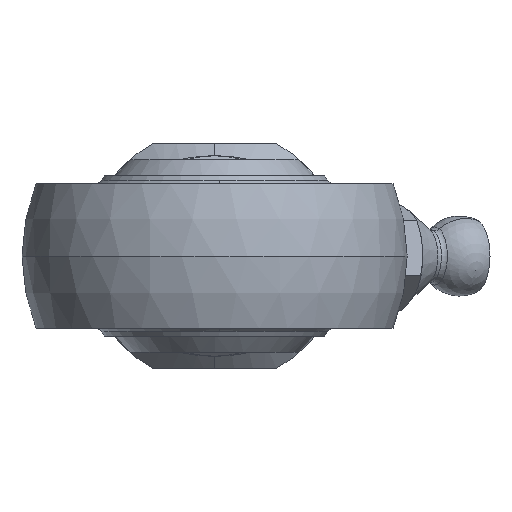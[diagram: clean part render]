
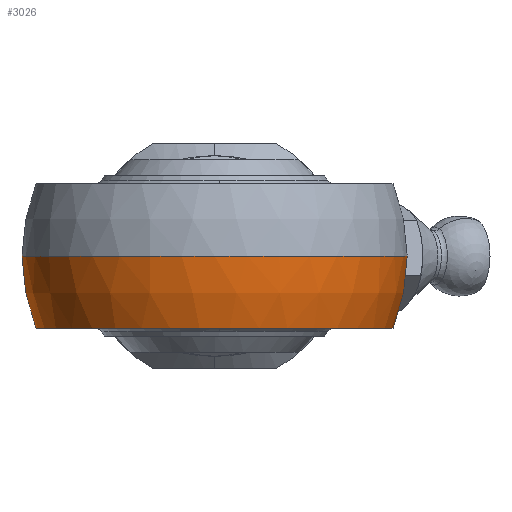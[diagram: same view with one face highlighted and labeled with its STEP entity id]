
A CAD part, left-side view. The second image highlights one B-rep face of the part: STEP entity #3026.
In plain terms, the highlighted spherical face has radius 12 mm.
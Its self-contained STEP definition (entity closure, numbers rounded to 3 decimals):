
#3023 = EDGE_LOOP ( 'NONE', ( #3028, #3031, #3039, #3042, #3045 ) ) ;
#3026 = ADVANCED_FACE ( 'NONE', ( #4826 ), #4828, .T. ) ;
#3027 = VERTEX_POINT ( 'NONE', #4713 ) ;
#3028 = ORIENTED_EDGE ( 'NONE', *, *, #3029, .T. ) ;
#3029 = EDGE_CURVE ( 'NONE', #3027, #3030, #4708, .T. ) ;
#3030 = VERTEX_POINT ( 'NONE', #4739 ) ;
#3031 = ORIENTED_EDGE ( 'NONE', *, *, #3032, .T. ) ;
#3032 = EDGE_CURVE ( 'NONE', #3030, #3033, #4707, .T. ) ;
#3033 = VERTEX_POINT ( 'NONE', #4703 ) ;
#3039 = ORIENTED_EDGE ( 'NONE', *, *, #3040, .F. ) ;
#3040 = EDGE_CURVE ( 'NONE', #3041, #3033, #4690, .T. ) ;
#3041 = VERTEX_POINT ( 'NONE', #4685 ) ;
#3042 = ORIENTED_EDGE ( 'NONE', *, *, #3043, .T. ) ;
#3043 = EDGE_CURVE ( 'NONE', #3041, #3044, #4684, .T. ) ;
#3044 = VERTEX_POINT ( 'NONE', #4679 ) ;
#3045 = ORIENTED_EDGE ( 'NONE', *, *, #3047, .T. ) ;
#3047 = EDGE_CURVE ( 'NONE', #3044, #3027, #4667, .T. ) ;
#4663 = DIRECTION ( 'NONE',  ( 1., 0., 0. ) ) ;
#4664 = DIRECTION ( 'NONE',  ( 0., 0., 1. ) ) ;
#4665 = CARTESIAN_POINT ( 'NONE',  ( 0., 0., -4.5 ) ) ;
#4666 = AXIS2_PLACEMENT_3D ( 'NONE', #4665, #4664, #4663 ) ;
#4667 = CIRCLE ( 'NONE', #4666, 11.124 ) ;
#4679 = CARTESIAN_POINT ( 'NONE',  ( 5.664, 9.574, -4.5 ) ) ;
#4680 = DIRECTION ( 'NONE',  ( 0., 0., 1. ) ) ;
#4681 = DIRECTION ( 'NONE',  ( -1., 0., 0. ) ) ;
#4682 = CARTESIAN_POINT ( 'NONE',  ( 5.664, 0., 0. ) ) ;
#4683 = AXIS2_PLACEMENT_3D ( 'NONE', #4682, #4681, #4680 ) ;
#4684 = CIRCLE ( 'NONE', #4683, 10.579 ) ;
#4685 = CARTESIAN_POINT ( 'NONE',  ( 5.664, 10.579, 0. ) ) ;
#4686 = DIRECTION ( 'NONE',  ( 1., 0., 0. ) ) ;
#4687 = DIRECTION ( 'NONE',  ( 0., 0., 1. ) ) ;
#4688 = CARTESIAN_POINT ( 'NONE',  ( 0., 0., 0. ) ) ;
#4689 = AXIS2_PLACEMENT_3D ( 'NONE', #4688, #4687, #4686 ) ;
#4690 = CIRCLE ( 'NONE', #4689, 12. ) ;
#4703 = CARTESIAN_POINT ( 'NONE',  ( -12., 0., 0. ) ) ;
#4704 = DIRECTION ( 'NONE',  ( 0., 1., 0. ) ) ;
#4705 = DIRECTION ( 'NONE',  ( 0., 0., -1. ) ) ;
#4706 = AXIS2_PLACEMENT_3D ( 'NONE', #4738, #4705, #4704 ) ;
#4707 = CIRCLE ( 'NONE', #4706, 12. ) ;
#4708 = CIRCLE ( 'NONE', #4743, 10.579 ) ;
#4709 = DIRECTION ( 'NONE',  ( 0., 1., 0. ) ) ;
#4710 = DIRECTION ( 'NONE',  ( 0., 0., -1. ) ) ;
#4711 = CARTESIAN_POINT ( 'NONE',  ( 0., 0., 0. ) ) ;
#4712 = AXIS2_PLACEMENT_3D ( 'NONE', #4711, #4710, #4709 ) ;
#4713 = CARTESIAN_POINT ( 'NONE',  ( 5.664, -9.574, -4.5 ) ) ;
#4738 = CARTESIAN_POINT ( 'NONE',  ( 0., 0., 0. ) ) ;
#4739 = CARTESIAN_POINT ( 'NONE',  ( 5.664, -10.579, 0. ) ) ;
#4740 = DIRECTION ( 'NONE',  ( 0., 0., 1. ) ) ;
#4741 = DIRECTION ( 'NONE',  ( -1., 0., 0. ) ) ;
#4742 = CARTESIAN_POINT ( 'NONE',  ( 5.664, 0., 0. ) ) ;
#4743 = AXIS2_PLACEMENT_3D ( 'NONE', #4742, #4741, #4740 ) ;
#4826 = FACE_OUTER_BOUND ( 'NONE', #3023, .T. ) ;
#4828 = SPHERICAL_SURFACE ( 'NONE', #4712, 12. ) ;
